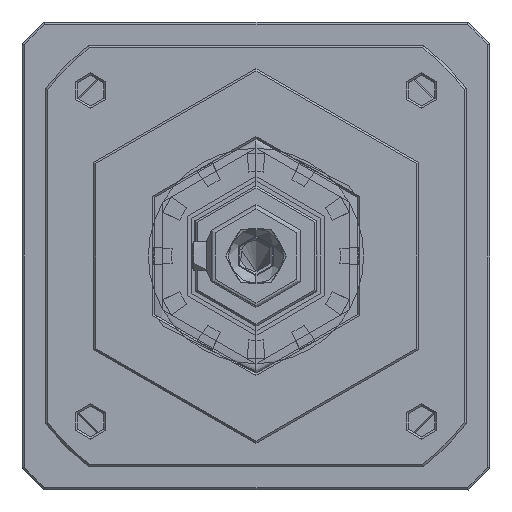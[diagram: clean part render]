
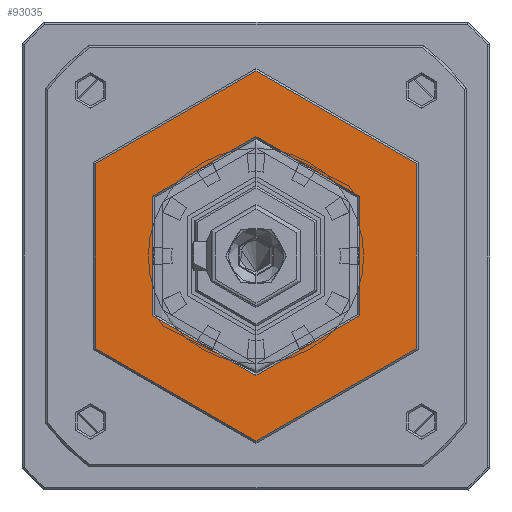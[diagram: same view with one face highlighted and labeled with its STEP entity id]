
A CAD part, left-side view. The second image highlights one B-rep face of the part: STEP entity #93035.
In plain terms, the highlighted planar face has unit normal (-1, 0, 0).
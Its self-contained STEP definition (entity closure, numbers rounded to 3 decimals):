
#2453 = DIRECTION ( 'NONE',  ( -1., 0., 0. ) ) ;
#6386 = CIRCLE ( 'NONE', #53384, 25.5 ) ;
#7425 = DIRECTION ( 'NONE',  ( -1., 0., 0. ) ) ;
#8070 = DIRECTION ( 'NONE',  ( 0., 0., 1. ) ) ;
#11204 = AXIS2_PLACEMENT_3D ( 'NONE', #81721, #14955, #44058 ) ;
#14955 = DIRECTION ( 'NONE',  ( -1., 0., 0. ) ) ;
#16033 = AXIS2_PLACEMENT_3D ( 'NONE', #41402, #2453, #48983 ) ;
#16439 = FACE_OUTER_BOUND ( 'NONE', #60443, .T. ) ;
#17736 = DIRECTION ( 'NONE',  ( 1., 0., 0. ) ) ;
#19959 = CIRCLE ( 'NONE', #11204, 39.5 ) ;
#25188 = EDGE_LOOP ( 'NONE', ( #30454, #58301 ) ) ;
#30454 = ORIENTED_EDGE ( 'NONE', *, *, #46147, .F. ) ;
#35961 = ORIENTED_EDGE ( 'NONE', *, *, #41584, .T. ) ;
#39553 = CIRCLE ( 'NONE', #16033, 25.5 ) ;
#40896 = CARTESIAN_POINT ( 'NONE',  ( 0., -39.974, 39.974 ) ) ;
#41402 = CARTESIAN_POINT ( 'NONE',  ( 0., 0., 0. ) ) ;
#41584 = EDGE_CURVE ( 'NONE', #46657, #51552, #97893, .T. ) ;
#44058 = DIRECTION ( 'NONE',  ( 0., 0., -1. ) ) ;
#44293 = AXIS2_PLACEMENT_3D ( 'NONE', #48832, #72306, #48507 ) ;
#46147 = EDGE_CURVE ( 'NONE', #56481, #91478, #6386, .T. ) ;
#46372 = EDGE_CURVE ( 'NONE', #91478, #56481, #39553, .T. ) ;
#46657 = VERTEX_POINT ( 'NONE', #81968 ) ;
#48507 = DIRECTION ( 'NONE',  ( 0., 0., -1. ) ) ;
#48832 = CARTESIAN_POINT ( 'NONE',  ( 0., 0., 0. ) ) ;
#48983 = DIRECTION ( 'NONE',  ( 0., 0., 1. ) ) ;
#49460 = DIRECTION ( 'NONE',  ( 0., 0., -1. ) ) ;
#51552 = VERTEX_POINT ( 'NONE', #91627 ) ;
#53384 = AXIS2_PLACEMENT_3D ( 'NONE', #97839, #7425, #8070 ) ;
#54288 = FACE_BOUND ( 'NONE', #25188, .T. ) ;
#56481 = VERTEX_POINT ( 'NONE', #63715 ) ;
#58301 = ORIENTED_EDGE ( 'NONE', *, *, #46372, .F. ) ;
#60443 = EDGE_LOOP ( 'NONE', ( #35961, #64423 ) ) ;
#63004 = PLANE ( 'NONE',  #88008 ) ;
#63190 = EDGE_CURVE ( 'NONE', #51552, #46657, #19959, .T. ) ;
#63715 = CARTESIAN_POINT ( 'NONE',  ( 0., 0., 25.5 ) ) ;
#64423 = ORIENTED_EDGE ( 'NONE', *, *, #63190, .T. ) ;
#67784 = CARTESIAN_POINT ( 'NONE',  ( 0., 0., -25.5 ) ) ;
#72306 = DIRECTION ( 'NONE',  ( -1., 0., 0. ) ) ;
#81721 = CARTESIAN_POINT ( 'NONE',  ( 0., 0., 0. ) ) ;
#81968 = CARTESIAN_POINT ( 'NONE',  ( 0., 0., -39.5 ) ) ;
#88008 = AXIS2_PLACEMENT_3D ( 'NONE', #40896, #17736, #49460 ) ;
#91478 = VERTEX_POINT ( 'NONE', #67784 ) ;
#91627 = CARTESIAN_POINT ( 'NONE',  ( 0., 0., 39.5 ) ) ;
#93035 = ADVANCED_FACE ( 'NONE', ( #54288, #16439 ), #63004, .F. ) ;
#97839 = CARTESIAN_POINT ( 'NONE',  ( 0., 0., 0. ) ) ;
#97893 = CIRCLE ( 'NONE', #44293, 39.5 ) ;
